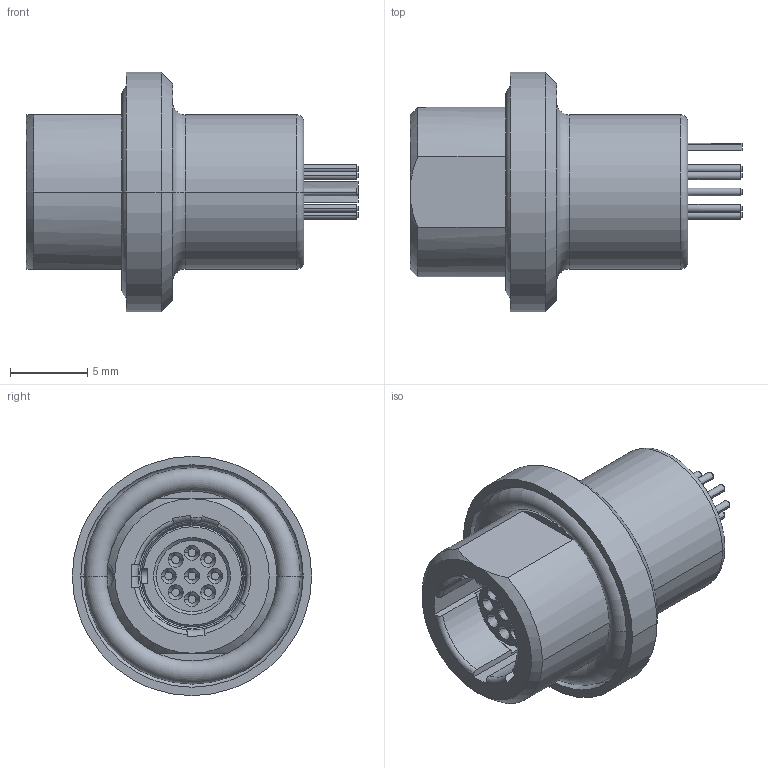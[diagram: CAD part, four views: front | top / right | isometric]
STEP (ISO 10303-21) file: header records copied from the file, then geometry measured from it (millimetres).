
FILE_DESCRIPTION((''),'2;1');
FILE_NAME('G80Y_R-P09UC00-000L_WITHOUT_HEX','2020-10-13T11:26:16',('EUnterhaslberger'),(''),'CREO PARAMETRIC BY PTC INC, 2018300','CREO PARAMETRIC BY PTC INC, 2018300','');
FILE_SCHEMA(('AP242_MANAGED_MODEL_BASED_3D_ENGINEERING_MIM_LF { 1 0 10303 442 1 1 4 }'));
Length unit declared in the file: millimetre
Products named in the file (1): G80Y_R-P09UC00-000L_WITHOUT_HEX
Bounding box: 21.5 x 15.5 x 15.5 mm (x, y, z)
Volume: 1491.2 mm3; surface area: 1814.1 mm2
Topology: 2 solids, 3 shells, 207 faces, 502 edges, 320 vertices
Faces by surface type: plane 62, cylinder 58, cone 52, torus 32, sphere 3
Entity records: 7671 total; most frequent: CARTESIAN_POINT 1391, DIRECTION 1105, ORIENTED_EDGE 1002, EDGE_CURVE 501, AXIS2_PLACEMENT_3D 456, VERTEX_POINT 320, CIRCLE 249, EDGE_LOOP 231
